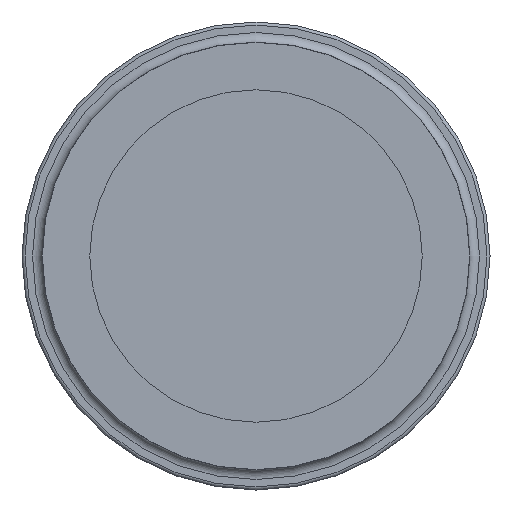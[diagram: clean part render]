
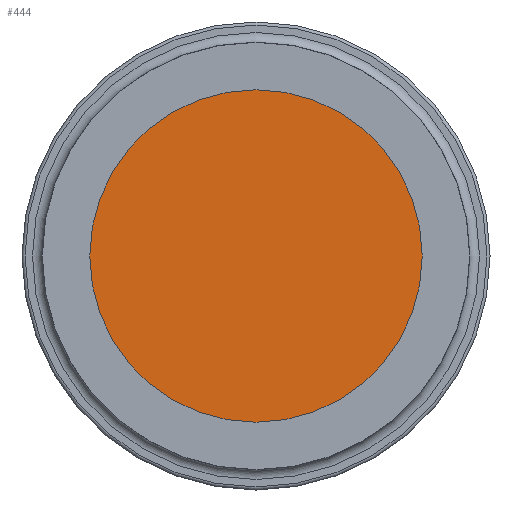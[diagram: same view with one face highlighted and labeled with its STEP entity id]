
A CAD part, left-side view. The second image highlights one B-rep face of the part: STEP entity #444.
In plain terms, the highlighted planar face has unit normal (-1, 0, 0).
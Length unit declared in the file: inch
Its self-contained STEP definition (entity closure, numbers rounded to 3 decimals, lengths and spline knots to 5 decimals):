
#444 = ADVANCED_FACE( '', ( #999 ), #1000, .F. );
#999 = FACE_OUTER_BOUND( '', #2565, .T. );
#1000 = PLANE( '', #2566 );
#2565 = EDGE_LOOP( '', ( #4163 ) );
#2566 = AXIS2_PLACEMENT_3D( '', #4164, #4165, #4166 );
#4163 = ORIENTED_EDGE( '', *, *, #5515, .T. );
#4164 = CARTESIAN_POINT( '', ( -0.04775, 0., 0.5325 ) );
#4165 = DIRECTION( '', ( 1., 0., 0. ) );
#4166 = DIRECTION( '', ( 0., 0., -1. ) );
#5515 = EDGE_CURVE( '', #6475, #6475, #6476, .T. );
#6475 = VERTEX_POINT( '', #8644 );
#6476 = CIRCLE( '', #8645, 0.5325 );
#8644 = CARTESIAN_POINT( '', ( -0.04775, 0., 0.5325 ) );
#8645 = AXIS2_PLACEMENT_3D( '', #9566, #9567, #9568 );
#9566 = CARTESIAN_POINT( '', ( -0.04775, 0., 0. ) );
#9567 = DIRECTION( '', ( -1., 0., 0. ) );
#9568 = DIRECTION( '', ( 0., 0., 1. ) );
